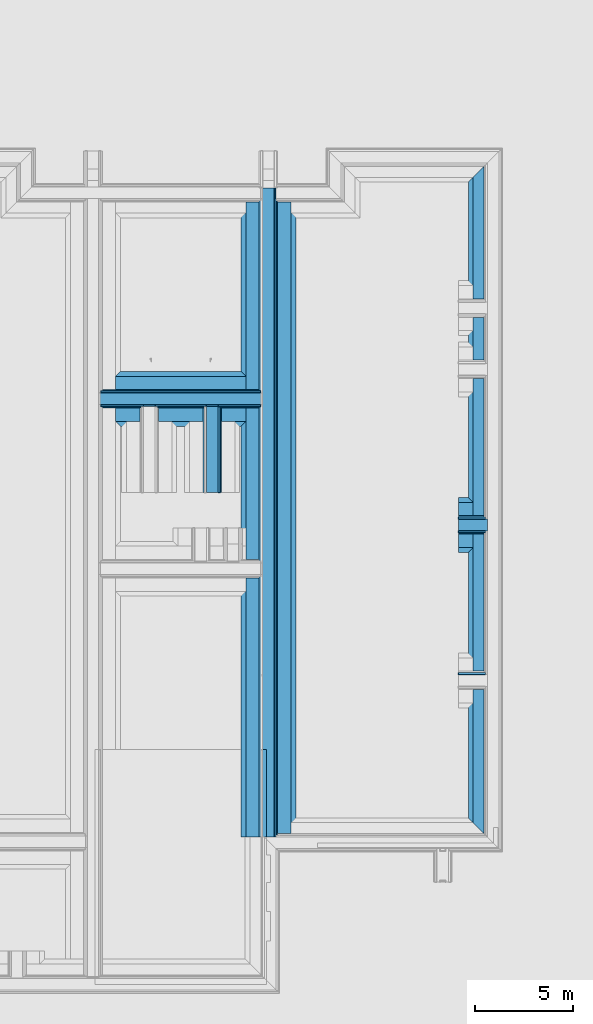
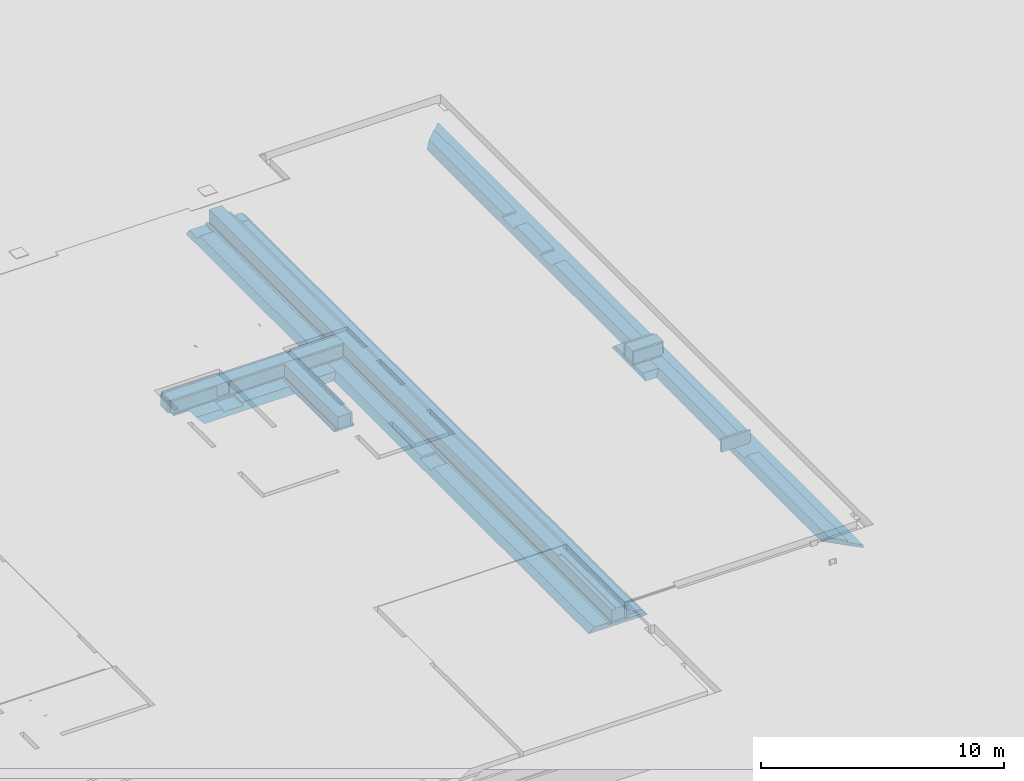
# One storey, part 11 of 15: 19 building element parts, 6 elements without a shape of their own.
"""IFC2X3 building model written with IfcOpenShell, lengths in millimetres."""

from ifc_helpers import new_model, entity, si_unit, converted_unit, derived_unit, money_unit, direction, frame, origin_with_axes, place, context, subcontext, project, spatial, faceted_brep, material, type_object, element, aggregate, save


model = new_model("IFC2X3")

# Units and contexts
model_context = context("Model", 3, precision=0.01, world=origin_with_axes(), true_north=direction((0.0, 1.0)))
plan_context = context("Plan", 3, precision=0.01, world=origin_with_axes(), true_north=direction((0.0, 1.0)))
body_context = subcontext(model_context, "Body", "Model", "MODEL_VIEW")
ifc_project = project(units=[si_unit("LENGTHUNIT", "METRE", prefix="MILLI"), si_unit("AREAUNIT", "SQUARE_METRE"), si_unit("VOLUMEUNIT", "CUBIC_METRE"), converted_unit("PLANEANGLEUNIT", "DEGREE", entity("IfcPlaneAngleMeasure", 0.0174532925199), si_unit("PLANEANGLEUNIT", "RADIAN"), dimensions=[0, 0, 0, 0, 0, 0, 0]), money_unit("EUR"), converted_unit("TIMEUNIT", "Year", entity("IfcTimeMeasure", 31556926.0), si_unit("TIMEUNIT", "SECOND"), dimensions=[0, 0, 1, 0, 0, 0, 0]), si_unit("MASSUNIT", "GRAM", prefix="KILO"), si_unit("THERMODYNAMICTEMPERATUREUNIT", "DEGREE_CELSIUS"), si_unit("LUMINOUSINTENSITYUNIT", "LUMEN"), si_unit("ENERGYUNIT", "JOULE", prefix="MEGA"), derived_unit("THERMALCONDUCTANCEUNIT", [(si_unit("POWERUNIT", "WATT"), 1), (si_unit("LENGTHUNIT", "METRE"), -1), (si_unit("THERMODYNAMICTEMPERATUREUNIT", "KELVIN"), -1)]), derived_unit("SPECIFICHEATCAPACITYUNIT", [(si_unit("ENERGYUNIT", "JOULE"), 1), (si_unit("MASSUNIT", "GRAM", prefix="KILO"), -1), (si_unit("THERMODYNAMICTEMPERATUREUNIT", "KELVIN"), -1)]), derived_unit("MASSDENSITYUNIT", [(si_unit("MASSUNIT", "GRAM", prefix="KILO"), 1), (si_unit("VOLUMEUNIT", "CUBIC_METRE"), -1)])], contexts=[model_context, plan_context])

# Site, building, storey
site_placement = place(None, origin_with_axes())
site = spatial("IfcSite", under=ifc_project, at=site_placement, Name="Site", CompositionType="ELEMENT")
building_placement = place(site_placement, origin_with_axes())
building = spatial("IfcBuilding", under=site, at=building_placement, Name="Naam gebouw", CompositionType="ELEMENT")
storey_placement = place(building_placement, frame((0.0, 0.0, -1050.0), z_axis=(0.0, 0.0, 1.0), x_axis=(1.0, 0.0, 0.0)))
storey = spatial("IfcBuildingStorey", under=building, at=storey_placement, Name="fundering", CompositionType="ELEMENT", Elevation=-1050.0)

# Beam, building element parts
beam_type_1 = type_object("IfcBeamType", Name="Fundering balk IsoBouw Powerkist 2800 x 850", PredefinedType="BEAM")
beam_1_placement = place(storey_placement, frame((54225.0, 28275.0, -60.0000017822), z_axis=(0.0, 0.0, 1.0), x_axis=(0.0, -1.0, 0.0)))
beam_1 = element("IfcBeam", 1, at=beam_1_placement, inside=storey, type_object=beam_type_1, Name="28_Balk-x", ObjectType="BEAM")
ifc_material_1 = material(Name="ALG - TERREIN")
building_element_part_1_placement = place(beam_1_placement, origin_with_axes())
building_element_part_1 = element("IfcBuildingElementPart", 2, at=building_element_part_1_placement, material=ifc_material_1, Name="ALG - TERREIN", context=body_context, shape_type="Brep", body=[
    faceted_brep([(-475.000395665, 754.999964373, 3.96947630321e-06), (-1150.00039795, 754.999964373, 3.96947630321e-06), (-1150.00039795, 0.0, -1.92126834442e-05), (-475.000395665, 0.0, 2.25106189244e-05), (-1400.00037562, 504.999974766, -249.999996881), (-475.000395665, 654.99996234, -100.000009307), (475.000395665, 654.99996234, -100.000009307), (475.000395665, 754.999964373, 3.96947630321e-06), (1150.00039795, 754.999964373, 3.96947630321e-06), (1400.00037562, 504.999974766, -249.999996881), (-1400.00037562, 0.0, -249.999996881), (1400.00037562, 0.0, -249.999996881), (1150.00039795, 0.0, -1.92126834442e-05), (475.000395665, 0.0, 2.25106189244e-05), (475.000395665, 0.0, -100.00001028), (-475.000395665, 0.0, -100.00001028)], [[[0, 1, 2, 3]], [[4, 1, 0, 5, 6, 7, 8, 9]], [[1, 4, 10, 2]], [[11, 12, 13, 14, 15, 3, 2, 10]], [[5, 0, 3, 15]], [[6, 5, 15, 14]], [[7, 6, 14, 13]], [[8, 7, 13, 12]], [[9, 8, 12, 11]], [[4, 9, 11, 10]]]),
])
ifc_material_2 = material(Name="Isolatie - EPS")
building_element_part_2_placement = place(beam_1_placement, origin_with_axes())
building_element_part_2 = element("IfcBuildingElementPart", 3, at=building_element_part_2_placement, material=ifc_material_2, Name="Isolatie - EPS", context=body_context, shape_type="Brep", body=[
    faceted_brep([(-400.000361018, 1304.99997477, 7.15338899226e-07), (-475.000375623, 1304.99997477, 7.15338899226e-07), (-475.000375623, 0.0, 8.43651903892e-06), (-400.000361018, 0.0, 8.43651903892e-06), (-475.000375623, 1304.99997477, -99.9999968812), (-380.000371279, 1304.99997477, 7.15338899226e-07), (-380.000371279, 1304.99997477, -49.0824435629), (-300.000369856, 1304.99997477, -49.0824435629), (-300.000369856, 1304.99997477, 7.15338899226e-07), (300.000369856, 1304.99997477, 7.15338899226e-07), (300.000369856, 1304.99997477, -49.0824435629), (380.000371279, 1304.99997477, -49.0824435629), (380.000371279, 1304.99997477, 7.15338899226e-07), (400.000361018, 1304.99997477, 7.15338899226e-07), (475.000375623, 1304.99997477, 7.15338899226e-07), (475.000375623, 1304.99997477, -99.9999968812), (-475.000375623, 0.0, -99.9999968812), (475.000375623, 0.0, 8.43651926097e-06), (400.000361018, 0.0, 8.43651903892e-06), (380.000371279, 0.0, 8.43651903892e-06), (380.000371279, 0.0, -49.0824435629), (300.000369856, 0.0, -49.0824435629), (300.000369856, 0.0, 8.43651903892e-06), (-300.000369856, 0.0, 8.43651903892e-06), (-300.000369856, 0.0, -49.0824435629), (-380.000371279, 0.0, -49.0824435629), (-380.000371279, 0.0, 8.43651903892e-06), (475.000375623, 0.0, -99.9999968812)], [[[0, 1, 2, 3]], [[4, 1, 0, 5, 6, 7, 8, 9, 10, 11, 12, 13, 14, 15]], [[1, 4, 16, 2]], [[17, 18, 19, 20, 21, 22, 23, 24, 25, 26, 3, 2, 16, 27]], [[5, 0, 3, 26]], [[6, 5, 26, 25]], [[7, 6, 25, 24]], [[8, 7, 24, 23]], [[9, 8, 23, 22]], [[10, 9, 22, 21]], [[11, 10, 21, 20]], [[12, 11, 20, 19]], [[13, 12, 19, 18]], [[14, 13, 18, 17]], [[15, 14, 17, 27]], [[4, 15, 27, 16]]]),
])
building_element_part_3_placement = place(beam_1_placement, origin_with_axes())
building_element_part_3 = element("IfcBuildingElementPart", 4, at=building_element_part_3_placement, material=ifc_material_2, Name="Isolatie - EPS", context=body_context, shape_type="Brep", body=[
    faceted_brep([(-300.00036966, 0.0, 600.000004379), (-300.00036966, 1379.99998712, 600.000000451), (-400.000366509, 1379.99998712, 600.000000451), (-400.000366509, 0.0, 600.000004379), (-300.00036966, 1304.99997477, 7.15338899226e-07), (-300.00036966, 1379.99998712, 7.15338899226e-07), (-300.00036966, 0.0, -49.0824424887), (-300.00036966, 1304.99997477, -49.0824424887), (-400.000366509, 1379.99998712, 7.15338899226e-07), (-400.000366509, 0.0, 2.4249691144e-06), (-380.000369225, 0.0, 2.4249691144e-06), (-380.000369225, 0.0, -49.0824424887), (-380.000369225, 1304.99997477, 7.15338899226e-07), (-380.000369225, 1304.99997477, -49.0824424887)], [[[0, 1, 2, 3]], [[4, 5, 1, 0, 6, 7]], [[5, 8, 2, 1]], [[3, 2, 8, 9]], [[6, 0, 3, 9, 10, 11]], [[9, 8, 5, 4, 12, 10]], [[11, 13, 7, 6]], [[7, 13, 12, 4]], [[10, 12, 13, 11]]]),
])
building_element_part_4_placement = place(beam_1_placement, origin_with_axes())
building_element_part_4 = element("IfcBuildingElementPart", 5, at=building_element_part_4_placement, material=ifc_material_2, Name="Isolatie - EPS", context=body_context, shape_type="Brep", body=[
    faceted_brep([(400.000366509, 0.0, 600.000004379), (400.000366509, 1379.99998712, 600.000000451), (300.00036966, 1379.99998712, 600.000000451), (300.00036966, 0.0, 600.000004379), (400.000366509, 0.0, 2.4249691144e-06), (400.000366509, 1379.99998712, 7.15338899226e-07), (300.00036966, 1379.99998712, 7.15338899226e-07), (300.00036966, 1304.99997477, 7.15338899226e-07), (300.00036966, 1304.99997477, -49.0824424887), (300.00036966, 0.0, -49.0824424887), (380.000369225, 0.0, -49.0824424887), (380.000369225, 0.0, 2.4249691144e-06), (380.000369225, 1304.99997477, 7.15338899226e-07), (380.000369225, 1304.99997477, -49.0824424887)], [[[0, 1, 2, 3]], [[4, 5, 1, 0]], [[5, 6, 2, 1]], [[6, 7, 8, 9, 3, 2]], [[10, 11, 4, 0, 3, 9]], [[7, 6, 5, 4, 11, 12]], [[13, 8, 7, 12]], [[9, 8, 13, 10]], [[10, 13, 12, 11]]]),
])
ifc_material_3 = material(Name="Beton gewapend C")
building_element_part_5_placement = place(beam_1_placement, origin_with_axes())
building_element_part_5 = element("IfcBuildingElementPart", 6, at=building_element_part_5_placement, material=ifc_material_3, Name="Beton gewapend C", context=body_context, shape_type="Brep", body=[
    faceted_brep([(300.000372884, 0.0, 600.0), (300.000372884, 1479.99997751, 600.000001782), (-300.000372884, 1479.99997751, 600.000001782), (-300.000372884, 0.0, 600.0), (300.000372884, 0.0, 0.0), (300.000372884, 1479.99997751, 1.78216552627e-06), (-300.000372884, 1479.99997751, 1.78216552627e-06), (-300.000372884, 0.0, 0.0)], [[[0, 1, 2, 3]], [[4, 5, 1, 0]], [[5, 6, 2, 1]], [[3, 2, 6, 7]], [[3, 7, 4, 0]], [[7, 6, 5, 4]]]),
])
aggregate(beam_1, [building_element_part_1, building_element_part_2, building_element_part_3, building_element_part_4, building_element_part_5])

# Beam, building element part
beam_2_placement = place(storey_placement, frame((54225.0, 20350.0, -60.0000017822), z_axis=(0.0, 0.0, 1.0), x_axis=(0.0, -1.0, 0.0)))
beam_2 = element("IfcBeam", 7, at=beam_2_placement, inside=storey, type_object=beam_type_1, Name="28_Balk-x", ObjectType="BEAM")
building_element_part_6_placement = place(beam_2_placement, origin_with_axes())
building_element_part_6 = element("IfcBuildingElementPart", 8, at=building_element_part_6_placement, material=ifc_material_2, Name="Isolatie - EPS", context=body_context, shape_type="Brep", body=[
    faceted_brep([(-300.00036966, 0.0, 600.000004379), (-300.00036966, 1379.99998712, 600.000000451), (-400.000366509, 1379.99998712, 600.000000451), (-400.000366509, 0.0, 600.000004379), (-300.00036966, 1304.99997477, 7.15338899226e-07), (-300.00036966, 1379.99998712, 7.15338899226e-07), (-300.00036966, 0.0, -49.0824424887), (-300.00036966, 1304.99997477, -49.0824424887), (-400.000366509, 1379.99998712, 7.15338899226e-07), (-400.000366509, 0.0, 2.4249691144e-06), (-380.000369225, 0.0, 2.4249691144e-06), (-380.000369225, 0.0, -49.0824424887), (-380.000369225, 1304.99997477, 7.15338899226e-07), (-380.000369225, 1304.99997477, -49.0824424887)], [[[0, 1, 2, 3]], [[4, 5, 1, 0, 6, 7]], [[5, 8, 2, 1]], [[3, 2, 8, 9]], [[6, 0, 3, 9, 10, 11]], [[9, 8, 5, 4, 12, 10]], [[11, 13, 7, 6]], [[7, 13, 12, 4]], [[10, 12, 13, 11]]]),
])
aggregate(beam_2, [building_element_part_6])

# Beam, building element parts
beam_3_placement = place(storey_placement, frame((41680.0, 34700.0000358, -60.0000017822), z_axis=(0.0, 0.0, 1.0), x_axis=(-1.0, 0.0, 0.0)))
beam_3 = element("IfcBeam", 9, at=beam_3_placement, inside=storey, type_object=beam_type_1, Name="28_Balk-x", ObjectType="BEAM")
building_element_part_7_placement = place(beam_3_placement, origin_with_axes())
building_element_part_7 = element("IfcBuildingElementPart", 10, at=building_element_part_7_placement, material=ifc_material_2, Name="Isolatie - EPS", context=body_context, shape_type="Brep", body=[
    faceted_brep([(-475.000375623, 475.000375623, -99.9999968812), (-475.000375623, 475.000375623, 1.52455683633e-05), (-475.000375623, 4775.00010807, 8.43651903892e-06), (-475.000375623, 4775.00010807, -99.9999968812), (-400.000361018, 475.000375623, 1.52455683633e-05), (475.000375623, 475.000375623, -99.9999968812), (475.000375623, 475.000375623, 1.52455683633e-05), (400.000361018, 475.000375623, 1.52455683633e-05), (380.000371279, 475.000375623, 1.52455683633e-05), (380.000371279, 475.000375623, -49.0824435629), (300.000369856, 475.000375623, -49.0824435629), (300.000369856, 475.000375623, 1.52455683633e-05), (-300.000369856, 475.000375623, 1.52455683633e-05), (-300.000369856, 475.000375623, -49.0824435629), (-380.000371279, 475.000375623, -49.0824435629), (-380.000371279, 475.000375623, 1.52455683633e-05), (-400.000361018, 4775.00010807, 8.43651903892e-06), (300.000369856, 4775.00010807, -49.0824435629), (380.000371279, 4775.00010807, -49.0824435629), (380.000371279, 4775.00010807, 8.43651903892e-06), (400.000361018, 4775.00010807, 8.43651903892e-06), (475.000375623, 4775.00010807, 8.43651926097e-06), (475.000375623, 4775.00010807, -99.9999968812), (-380.000371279, 4775.00010807, 8.43651903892e-06), (-380.000371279, 4775.00010807, -49.0824435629), (-300.000369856, 4775.00010807, -49.0824435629), (-300.000369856, 4775.00010807, 8.43651903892e-06), (300.000369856, 4775.00010807, 8.43651903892e-06)], [[[0, 1, 2, 3]], [[4, 1, 0, 5, 6, 7, 8, 9, 10, 11, 12, 13, 14, 15]], [[1, 4, 16, 2]], [[17, 18, 19, 20, 21, 22, 3, 2, 16, 23, 24, 25, 26, 27]], [[5, 0, 3, 22]], [[6, 5, 22, 21]], [[7, 6, 21, 20]], [[8, 7, 20, 19]], [[9, 8, 19, 18]], [[10, 9, 18, 17]], [[11, 10, 17, 27]], [[12, 11, 27, 26]], [[13, 12, 26, 25]], [[14, 13, 25, 24]], [[15, 14, 24, 23]], [[4, 15, 23, 16]]]),
])
building_element_part_8_placement = place(beam_3_placement, origin_with_axes())
building_element_part_8 = element("IfcBuildingElementPart", 11, at=building_element_part_8_placement, material=ifc_material_2, Name="Isolatie - EPS", context=body_context, shape_type="Brep", body=[
    faceted_brep([(-400.000366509, 4775.00010807, 2.4249691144e-06), (-400.000366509, 400.000373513, 1.52455683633e-05), (-400.000366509, 400.000373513, 600.000004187), (-400.000366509, 4775.00010807, 600.000004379), (-300.00036966, 475.000375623, 1.52455683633e-05), (-300.00036966, 400.000373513, 1.52455683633e-05), (-380.000369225, 4775.00010807, 2.4249691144e-06), (-380.000369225, 475.000375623, 1.52455683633e-05), (-300.00036966, 400.000373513, 600.000004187), (-300.00036966, 4775.00010807, 600.000004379), (-300.00036966, 4775.00010807, -49.0824424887), (-380.000369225, 4775.00010807, -49.0824424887), (-300.00036966, 475.000375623, -49.0824424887), (-380.000369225, 475.000375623, -49.0824424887)], [[[0, 1, 2, 3]], [[4, 5, 1, 0, 6, 7]], [[5, 8, 2, 1]], [[3, 2, 8, 9]], [[10, 11, 6, 0, 3, 9]], [[5, 4, 12, 10, 9, 8]], [[11, 13, 7, 6]], [[4, 7, 13, 12]], [[10, 12, 13, 11]]]),
])
building_element_part_9_placement = place(beam_3_placement, origin_with_axes())
building_element_part_9 = element("IfcBuildingElementPart", 12, at=building_element_part_9_placement, material=ifc_material_3, Name="Beton gewapend C", context=body_context, shape_type="Brep", body=[
    faceted_brep([(-300.000372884, 4775.00010807, 0.0), (-300.000372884, 300.000372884, 0.0), (-300.000372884, 300.000372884, 600.0), (-300.000372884, 4775.00010807, 600.0), (300.000372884, 4775.00010807, 0.0), (300.000372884, 300.000372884, 0.0), (300.000372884, 300.000372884, 600.0), (300.000372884, 4775.00010807, 600.0)], [[[0, 1, 2, 3]], [[4, 5, 1, 0]], [[5, 6, 2, 1]], [[3, 2, 6, 7]], [[4, 0, 3, 7]], [[7, 6, 5, 4]]]),
])
aggregate(beam_3, [building_element_part_7, building_element_part_8, building_element_part_9])

# Beam, building element part
beam_type_2 = type_object("IfcBeamType", Name="Fundering balk IsoBouw Powerkist buitenwand 1750 x 850", PredefinedType="BEAM")
beam_4_placement = place(storey_placement, frame((56024.9999775, 47036.9998512, -60.0000017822), z_axis=(0.0, 0.0, 1.0), x_axis=(-1.0, 0.0, 0.0)))
beam_4 = element("IfcBeam", 13, at=beam_4_placement, inside=storey, type_object=beam_type_2, Name="28_Balk-x", ObjectType="BEAM")
building_element_part_10_placement = place(beam_4_placement, origin_with_axes())
building_element_part_10 = element("IfcBuildingElementPart", 14, at=building_element_part_10_placement, material=ifc_material_1, Name="ALG - TERREIN", context=body_context, shape_type="Brep", body=[
    faceted_brep([(1045.00001313, 7236.99947562, 3.96947630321e-06), (495.00000274, 7236.99947562, 7.15338899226e-07), (495.000015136, 495.000430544, -7.27431315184e-06), (1045.00001313, 1045.00089011, -7.27431315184e-06), (495.00000274, 7236.99947562, -99.9999968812), (1145.00000274, 7236.99947562, -99.9999968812), (495.000015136, 495.000430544, -99.9999926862), (20.0000061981, 20.0000229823, -99.9999926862), (20.0000061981, 20.0000229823, -249.999996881), (1295.00000274, 1295.00108951, -249.999996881), (1295.00000274, 33691.9998148, -249.999996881), (1045.00001313, 33941.9998044, -7.27431315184e-06), (1045.00001313, 27162.0002269, 3.96947630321e-06), (1145.00000274, 27162.0002269, -99.9999968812), (1145.00000274, 26211.9994756, -99.9999968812), (1045.00001313, 26211.9994756, 3.96947630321e-06), (1045.00001313, 19237.0002269, 3.96947630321e-06), (1145.00000274, 19237.0002269, -99.9999968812), (1145.00000274, 18286.9994756, -99.9999968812), (1045.00001313, 18286.9994756, 3.96947630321e-06), (1045.00001313, 11312.0002269, 3.96947630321e-06), (1145.00000274, 11312.0002269, -99.9999968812), (1145.00000274, 10361.9994756, -99.9999968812), (1045.00001313, 10361.9994756, 3.96947630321e-06), (1045.00001313, 8187.00022687, 3.96947630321e-06), (1145.00000274, 8187.00022687, -99.9999968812), (495.00000274, 8187.00022687, -99.9999968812), (495.00000274, 10361.9994756, -99.9999968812), (495.00000274, 11312.0002269, -99.9999968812), (495.00000274, 18286.9994756, -99.9999968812), (495.00000274, 19237.0002269, -99.9999968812), (495.00000274, 26211.9994756, -99.9999968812), (495.00000274, 27162.0002269, -99.9999968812), (495.000015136, 34491.9998024, -99.9999926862), (20.0000061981, 34966.9998114, -99.9999926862), (20.0000061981, 34966.9998114, -249.999996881), (495.000015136, 34491.9998024, -7.27431315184e-06), (495.00000274, 27162.0002269, 7.15338899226e-07), (495.00000274, 26211.9994756, 7.15338899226e-07), (495.00000274, 19237.0002269, 7.15338899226e-07), (495.00000274, 18286.9994756, 7.15338899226e-07), (495.00000274, 11312.0002269, 7.15338899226e-07), (495.00000274, 10361.9994756, 7.15338899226e-07), (495.00000274, 8187.00022687, 7.15338899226e-07)], [[[0, 1, 2, 3]], [[4, 1, 0, 5]], [[1, 4, 6, 2]], [[6, 7, 8, 9, 3, 2]], [[5, 0, 3, 9, 10, 11, 12, 13, 14, 15, 16, 17, 18, 19, 20, 21, 22, 23, 24, 25]], [[4, 5, 25, 26, 27, 22, 21, 28, 29, 18, 17, 30, 31, 14, 13, 32, 33, 34, 7, 6]], [[34, 35, 8, 7]], [[35, 10, 9, 8]], [[35, 34, 33, 36, 11, 10]], [[11, 36, 37, 12]], [[32, 13, 12, 37]], [[15, 14, 31, 38]], [[38, 39, 16, 15]], [[17, 16, 39, 30]], [[18, 29, 40, 19]], [[20, 19, 40, 41]], [[41, 28, 21, 20]], [[42, 23, 22, 27]], [[43, 24, 23, 42]], [[24, 43, 26, 25]], [[26, 43, 42, 27]], [[41, 40, 29, 28]], [[31, 30, 39, 38]], [[36, 33, 32, 37]]]),
])
aggregate(beam_4, [building_element_part_10])

# Beam, building element parts
beam_5_placement = place(storey_placement, frame((35604.9999775, 34700.0000358, -60.0000017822), z_axis=(0.0, 0.0, 1.0), x_axis=(0.0, -1.0, 0.0)))
beam_5 = element("IfcBeam", 15, at=beam_5_placement, inside=storey, type_object=beam_type_1, Name="28_Balk-x", ObjectType="BEAM")
building_element_part_11_placement = place(beam_5_placement, origin_with_axes())
building_element_part_11 = element("IfcBuildingElementPart", 16, at=building_element_part_11_placement, material=ifc_material_1, Name="ALG - TERREIN", context=body_context, shape_type="Brep", body=[
    faceted_brep([(475.000375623, 6550.00039812, -99.9999968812), (475.000375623, 6550.00039812, 1.52455683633e-05), (475.000395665, 7789.99962455, -1.92126834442e-05), (475.000395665, 7689.99963348, -100.00001028), (1150.00039795, 6550.00039812, 1.41767058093e-05), (1250.00037562, 6550.00039812, -99.9999968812), (1150.00039795, 7789.99962455, -1.92126834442e-05), (1400.00037562, 7539.99964688, -249.999996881), (-1400.00037562, 7539.99964688, -249.999996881), (-1150.00039795, 7789.99962455, -1.92126834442e-05), (-475.000395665, 7789.99962455, -1.92126834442e-05), (-475.000395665, 7689.99963348, -100.00001028), (475.000375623, 5599.99964688, -99.9999968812), (1250.00037562, 5599.99964688, -99.9999968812), (-475.000395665, 1250.00041152, -100.00001028), (475.000395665, 1250.00041152, -100.00001028), (475.000375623, 2389.99964688, -99.9999968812), (1250.00037562, 2389.99964688, -99.9999968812), (1250.00037562, 3340.00039812, -99.9999968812), (475.000375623, 3340.00039812, -99.9999968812), (1150.00039795, 5599.99964688, 1.41767058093e-05), (1150.00039795, 3340.00039812, 1.41767058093e-05), (1150.00039795, 2389.99964688, 1.41767058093e-05), (1150.00039795, 1150.00042046, -1.92126834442e-05), (1400.00037562, 1400.00039832, -249.999996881), (-1400.00037562, 1400.00039828, -249.999996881), (-1150.00039795, 1150.00042046, -1.92126834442e-05), (-475.000395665, 1150.00042046, -1.92126834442e-05), (475.000375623, 5599.99964688, 1.52455683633e-05), (475.000395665, 1150.00042046, -1.92126834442e-05), (475.000375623, 2389.99964688, 1.52455683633e-05), (475.000375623, 3340.00039812, 1.52455683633e-05)], [[[0, 1, 2, 3]], [[4, 1, 0, 5]], [[1, 4, 6, 2]], [[2, 6, 7, 8, 9, 10, 11, 3]], [[12, 13, 5, 0, 3, 11, 14, 15, 16, 17, 18, 19]], [[13, 20, 21, 18, 17, 22, 23, 24, 7, 6, 4, 5]], [[8, 7, 24, 25]], [[9, 8, 25, 26]], [[10, 9, 26, 27]], [[11, 10, 27, 14]], [[12, 28, 20, 13]], [[14, 27, 26, 25, 24, 23, 29, 15]], [[29, 30, 16, 15]], [[17, 16, 30, 22]], [[18, 21, 31, 19]], [[28, 12, 19, 31]], [[20, 28, 31, 21]], [[23, 22, 30, 29]]]),
])
building_element_part_12_placement = place(beam_5_placement, origin_with_axes())
building_element_part_12 = element("IfcBuildingElementPart", 17, at=building_element_part_12_placement, material=ifc_material_2, Name="Isolatie - EPS", context=body_context, shape_type="Brep", body=[
    faceted_brep([(-475.000375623, 8464.99964688, 1.52455683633e-05), (-475.000375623, 8464.99964688, -99.9999968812), (-475.000375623, 475.000398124, -99.9999968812), (-475.000375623, 475.000398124, 1.52455683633e-05), (400.000361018, 8464.99964688, 1.52455683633e-05), (475.000375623, 8464.99964688, 1.52455683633e-05), (475.000375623, 8464.99964688, -99.9999968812), (-400.000361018, 8464.99964688, 1.52455683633e-05), (-380.000371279, 8464.99964688, 1.52455683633e-05), (-380.000371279, 8464.99964688, -49.0824435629), (-300.000369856, 8464.99964688, -49.0824435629), (-300.000369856, 8464.99964688, 1.52455683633e-05), (300.000369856, 8464.99964688, 1.52455683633e-05), (300.000369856, 8464.99964688, -49.0824435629), (380.000371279, 8464.99964688, -49.0824435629), (380.000371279, 8464.99964688, 1.52455683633e-05), (475.000375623, 475.000398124, -99.9999968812), (-380.000371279, 475.000398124, -49.0824435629), (-380.000371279, 475.000398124, 1.52455683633e-05), (-400.000361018, 475.000398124, 1.52455683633e-05), (475.000375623, 475.000398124, 1.52455683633e-05), (400.000361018, 475.000398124, 1.52455683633e-05), (380.000371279, 475.000398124, 1.52455683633e-05), (380.000371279, 475.000398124, -49.0824435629), (300.000369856, 475.000398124, -49.0824435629), (300.000369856, 475.000398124, 1.52455683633e-05), (-300.000369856, 475.000398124, 1.52455683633e-05), (-300.000369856, 475.000398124, -49.0824435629)], [[[0, 1, 2, 3]], [[4, 5, 6, 1, 0, 7, 8, 9, 10, 11, 12, 13, 14, 15]], [[1, 6, 16, 2]], [[17, 18, 19, 3, 2, 16, 20, 21, 22, 23, 24, 25, 26, 27]], [[7, 0, 3, 19]], [[5, 4, 21, 20]], [[6, 5, 20, 16]], [[8, 7, 19, 18]], [[9, 8, 18, 17]], [[10, 9, 17, 27]], [[11, 10, 27, 26]], [[12, 11, 26, 25]], [[13, 12, 25, 24]], [[14, 13, 24, 23]], [[15, 14, 23, 22]], [[4, 15, 22, 21]]]),
])
building_element_part_13_placement = place(beam_5_placement, origin_with_axes())
building_element_part_13 = element("IfcBuildingElementPart", 18, at=building_element_part_13_placement, material=ifc_material_2, Name="Isolatie - EPS", context=body_context, shape_type="Brep", body=[
    faceted_brep([(-380.000369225, 8464.99964688, -49.0824424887), (-380.000369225, 475.000398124, -49.0824424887), (-380.000369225, 475.000398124, 1.52455683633e-05), (-380.000369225, 8464.99964688, 1.52455683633e-05), (-300.00036966, 8464.99964688, -49.0824424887), (-300.00036966, 475.000398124, -49.0824424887), (-300.00036966, 475.000398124, 1.52455683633e-05), (-300.00036966, 400.000396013, 1.52455683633e-05), (-400.000366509, 400.000396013, 1.52455683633e-05), (-400.000366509, 8539.99964899, 1.52455683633e-05), (-300.00036966, 8539.99964899, 1.52455683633e-05), (-300.00036966, 8464.99964688, 1.52455683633e-05), (-300.00036966, 8539.99964899, 600.000004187), (-300.00036966, 400.000396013, 600.000004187), (-400.000366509, 400.000396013, 600.000004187), (-400.000366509, 8539.99964899, 600.000004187)], [[[0, 1, 2, 3]], [[4, 5, 1, 0]], [[6, 2, 1, 5]], [[6, 7, 8, 9, 10, 11, 3, 2]], [[11, 4, 0, 3]], [[7, 6, 5, 4, 11, 10, 12, 13]], [[7, 13, 14, 8]], [[9, 8, 14, 15]], [[12, 10, 9, 15]], [[15, 14, 13, 12]]]),
])
building_element_part_14_placement = place(beam_5_placement, origin_with_axes())
building_element_part_14 = element("IfcBuildingElementPart", 19, at=building_element_part_14_placement, material=ifc_material_2, Name="Isolatie - EPS", context=body_context, shape_type="Brep", body=[
    faceted_brep([(300.000372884, 5774.99964962, 600.0), (300.000372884, 5774.99964962, 0.0), (300.000372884, 6375.00039538, 0.0), (300.000372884, 6375.00039538, 600.0), (300.00036966, 8539.99964899, 600.000004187), (300.00036966, 8539.99964899, 1.52455683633e-05), (300.00036966, 8464.99964688, 1.52455683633e-05), (300.00036966, 8464.99964688, -49.0824424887), (300.00036966, 475.000398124, -49.0824424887), (300.00036966, 475.000398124, 1.52455683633e-05), (300.00036966, 400.000396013, 1.52455683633e-05), (300.00036966, 400.000396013, 600.000004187), (300.000372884, 2564.99964962, 600.0), (300.000372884, 2564.99964962, 0.0), (300.000372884, 3165.00039538, 0.0), (300.000372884, 3165.00039538, 600.0), (380.000369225, 5774.99964962, 0.0), (400.000366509, 5774.99964962, 600.0), (400.000366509, 5774.99964962, 0.0), (380.000369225, 6375.00039538, 0.0), (400.000366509, 6375.00039538, 0.0), (400.000366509, 6375.00039538, 600.0), (400.000366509, 8539.99964899, 600.000004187), (400.000366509, 8539.99964899, 1.52455683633e-05), (380.000369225, 8464.99964688, 1.52455683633e-05), (380.000369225, 8464.99964688, -49.0824424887), (380.000369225, 475.000398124, -49.0824424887), (380.000369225, 475.000398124, 1.52455683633e-05), (380.000369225, 2564.99964962, 0.0), (400.000366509, 2564.99964962, 0.0), (400.000366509, 400.000396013, 1.52455683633e-05), (400.000366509, 400.000396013, 600.000004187), (400.000366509, 2564.99964962, 600.0), (380.000369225, 3165.00039538, 0.0), (400.000366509, 3165.00039538, 0.0), (400.000366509, 3165.00039538, 600.0)], [[[0, 1, 2, 3, 4, 5, 6, 7, 8, 9, 10, 11, 12, 13, 14, 15]], [[16, 1, 0, 17, 18]], [[19, 2, 1, 16]], [[20, 21, 3, 2, 19]], [[4, 3, 21, 22]], [[5, 4, 22, 23]], [[23, 20, 19, 24, 6, 5]], [[7, 6, 24, 25]], [[8, 7, 25, 26]], [[8, 26, 27, 9]], [[9, 27, 28, 29, 30, 10]], [[11, 10, 30, 31]], [[11, 31, 32, 12]], [[29, 28, 13, 12, 32]], [[28, 33, 14, 13]], [[33, 34, 35, 15, 14]], [[35, 17, 0, 15]], [[34, 18, 17, 35]], [[33, 16, 18, 34]], [[24, 19, 16, 33, 28, 27, 26, 25]], [[22, 21, 20, 23]], [[31, 30, 29, 32]]]),
])
building_element_part_15_placement = place(beam_5_placement, origin_with_axes())
building_element_part_15 = element("IfcBuildingElementPart", 20, at=building_element_part_15_placement, material=ifc_material_3, Name="Beton gewapend C", context=body_context, shape_type="Brep", body=[
    faceted_brep([(-300.000372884, 8639.99964962, 0.0), (-300.000372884, 300.000395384, 0.0), (-300.000372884, 300.000395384, 600.0), (-300.000372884, 8639.99964962, 600.0), (300.000372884, 8639.99964962, 0.0), (300.000372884, 300.000395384, 0.0), (300.000372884, 300.000395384, 600.0), (300.000372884, 8639.99964962, 600.0)], [[[0, 1, 2, 3]], [[4, 5, 1, 0]], [[5, 6, 2, 1]], [[3, 2, 6, 7]], [[7, 4, 0, 3]], [[7, 6, 5, 4]]]),
])
aggregate(beam_5, [building_element_part_11, building_element_part_12, building_element_part_13, building_element_part_14, building_element_part_15])

beam_6_placement = place(storey_placement, frame((44545.0, 45453.0, -60.0000017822), z_axis=(0.0, 0.0, 1.0), x_axis=(-1.0, 0.0, 0.0)))
beam_6 = element("IfcBeam", 21, at=beam_6_placement, inside=storey, type_object=beam_type_1, Name="28_Balk-x", ObjectType="BEAM")
building_element_part_16_placement = place(beam_6_placement, origin_with_axes())
building_element_part_16 = element("IfcBuildingElementPart", 22, at=building_element_part_16_placement, material=ifc_material_1, Name="ALG - TERREIN", context=body_context, shape_type="Brep", body=[
    faceted_brep([(-1250.00037562, 32907.9999636, -99.9999968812), (-1250.00037143, 33082.9999534, -99.9999926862), (-1400.00037562, 33082.9999125, -249.999996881), (-1400.00037562, 0.0, -249.999996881), (-1250.00037562, 0.0, -99.9999968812), (-1250.00037143, 250.000006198, -99.9999926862), (-1250.00037562, 725.00000274, -99.9999968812), (-1150.00039795, 725.00000274, 7.15338899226e-07), (-1150.00039795, 32907.9999636, 7.15338899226e-07), (-475.000395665, 32907.9999636, -99.9999968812), (-475.000395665, 33082.9999125, -99.9999926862), (475.000395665, 33082.9999125, -100.00001028), (475.000395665, 33082.9999125, 2.25106189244e-05), (1150.00039795, 33082.9999125, -1.92126834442e-05), (1400.00037562, 33082.9999125, -249.999996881), (1400.00037562, 0.0, -249.999996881), (1250.00037562, 0.0, -99.9999968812), (475.000395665, 0.0, -99.9999968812), (-475.000395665, 0.0, -99.9999968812), (-475.000395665, 250.000006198, -99.9999926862), (-475.000395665, 725.00000274, -99.9999968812), (-475.000395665, 725.00000274, 7.15338899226e-07), (-475.000395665, 32907.9999636, 7.15338899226e-07), (475.000395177, 250.000006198, -99.9999926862), (475.000394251, 725.00000274, -99.9999968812), (475.000375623, 10277.9995886, -99.9999968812), (1250.00037562, 10277.9995886, -99.9999968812), (1250.00037562, 11228.0003399, -99.9999968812), (475.000375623, 11228.0003399, -99.9999968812), (475.000375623, 18937.9996244, -99.9999968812), (1250.00037562, 18937.9996244, -99.9999968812), (1250.00037562, 19888.0003756, -99.9999968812), (475.000375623, 19888.0003756, -99.9999968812), (475.000375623, 19888.0003756, 1.52455683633e-05), (1150.00039795, 19888.0003756, 1.25125760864e-05), (1150.00039795, 725.00000274, 7.15338899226e-07), (1250.00037562, 725.00000274, -99.9999968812), (1250.00037143, 250.000006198, -99.9999926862), (1150.00039795, 18937.9996244, 1.25125760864e-05), (1150.00039795, 11228.0003399, 1.25125760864e-05), (1150.00039795, 10277.9995886, 1.25125760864e-05), (475.000375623, 10277.9995886, 1.52455683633e-05), (475.000394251, 725.00000274, 7.15338899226e-07), (475.000375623, 11228.0003399, 1.52455683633e-05), (475.000375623, 18937.9996244, 1.52455683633e-05)], [[[0, 1, 2, 3, 4, 5, 6, 7, 8]], [[1, 0, 9, 10]], [[1, 10, 11, 12, 13, 14, 2]], [[15, 3, 2, 14]], [[16, 17, 18, 4, 3, 15]], [[18, 19, 5, 4]], [[19, 20, 6, 5]], [[20, 21, 7, 6]], [[22, 8, 7, 21]], [[0, 8, 22, 9]], [[10, 9, 20, 19, 18, 17, 23, 24, 25, 26, 27, 28, 29, 30, 31, 32, 11]], [[33, 12, 11, 32]], [[34, 13, 12, 33]], [[35, 36, 37, 16, 15, 14, 13, 34, 31, 30, 38, 39, 27, 26, 40]], [[16, 37, 23, 17]], [[9, 22, 21, 20]], [[37, 36, 24, 23]], [[41, 25, 24, 42]], [[25, 41, 40, 26]], [[39, 43, 28, 27]], [[29, 28, 43, 44]], [[44, 38, 30, 29]], [[33, 32, 31, 34]], [[24, 36, 35, 42]], [[44, 43, 39, 38]], [[40, 41, 42, 35]]]),
])
building_element_part_17_placement = place(beam_6_placement, origin_with_axes())
building_element_part_17 = element("IfcBuildingElementPart", 23, at=building_element_part_17_placement, material=ifc_material_2, Name="Isolatie - EPS", context=body_context, shape_type="Brep", body=[
    faceted_brep([(380.000371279, 0.0, 8.43651903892e-06), (380.000371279, 33082.9999125, 8.43651903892e-06), (380.000371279, 33082.9999125, -49.0824435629), (380.000371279, 0.0, -49.0824435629), (400.000361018, 0.0, 8.43651903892e-06), (400.000361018, 33082.9999125, 8.43651903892e-06), (-300.000369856, 33082.9999125, -49.0824435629), (-300.000369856, 33082.9999125, 8.43651903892e-06), (300.000369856, 33082.9999125, 8.43651903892e-06), (300.000369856, 33082.9999125, -49.0824435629), (475.000375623, 33082.9999125, 8.43651926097e-06), (475.000375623, 33082.9999125, -99.9999968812), (-475.000375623, 33082.9999125, -99.9999968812), (-475.000375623, 33082.9999125, 8.43651903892e-06), (-400.000361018, 33082.9999125, 8.43651903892e-06), (-380.000371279, 33082.9999125, 8.43651903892e-06), (-380.000371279, 33082.9999125, -49.0824435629), (300.000369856, 0.0, -49.0824435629), (-475.000375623, 0.0, 8.43651903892e-06), (-475.000375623, 0.0, -99.9999968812), (475.000375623, 0.0, -99.9999968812), (475.000375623, 0.0, 8.43651926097e-06), (300.000369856, 0.0, 8.43651903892e-06), (-300.000369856, 0.0, 8.43651903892e-06), (-300.000369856, 0.0, -49.0824435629), (-380.000371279, 0.0, -49.0824435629), (-380.000371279, 0.0, 8.43651903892e-06), (-400.000361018, 0.0, 8.43651903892e-06)], [[[0, 1, 2, 3]], [[4, 5, 1, 0]], [[6, 7, 8, 9, 2, 1, 5, 10, 11, 12, 13, 14, 15, 16]], [[3, 2, 9, 17]], [[18, 19, 20, 21, 4, 0, 3, 17, 22, 23, 24, 25, 26, 27]], [[21, 10, 5, 4]], [[23, 7, 6, 24]], [[22, 8, 7, 23]], [[17, 9, 8, 22]], [[20, 11, 10, 21]], [[19, 12, 11, 20]], [[18, 13, 12, 19]], [[27, 14, 13, 18]], [[26, 15, 14, 27]], [[25, 16, 15, 26]], [[24, 6, 16, 25]]]),
])
building_element_part_18_placement = place(beam_6_placement, origin_with_axes())
building_element_part_18 = element("IfcBuildingElementPart", 24, at=building_element_part_18_placement, material=ifc_material_2, Name="Isolatie - EPS", context=body_context, shape_type="Brep", body=[
    faceted_brep([(-400.000366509, 550.0, 600.000001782), (-400.000366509, 33082.9999125, 600.000004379), (-400.000366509, 33082.9999125, 2.4249691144e-06), (-400.000366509, 550.0, 1.78216552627e-06), (-300.00036966, 550.0, 600.000001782), (-300.00036966, 33082.9999125, 600.000004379), (-300.00036966, 33082.9999125, -49.0824424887), (-380.000369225, 33082.9999125, -49.0824424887), (-380.000369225, 33082.9999125, 2.4249691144e-06), (-380.000369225, 550.0, 1.78216552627e-06), (-300.00036966, 550.0, 1.78216552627e-06), (-300.00036966, 0.0, 1.4851386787e-07), (-300.00036966, 0.0, -49.0824424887), (-380.000369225, 0.0, -49.0824424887), (-380.000369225, 0.0, 1.4851386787e-07)], [[[0, 1, 2, 3]], [[4, 5, 1, 0]], [[5, 6, 7, 8, 2, 1]], [[3, 2, 8, 9]], [[3, 9, 10, 4, 0]], [[6, 5, 4, 10, 11, 12]], [[7, 6, 12, 13]], [[8, 7, 13, 14, 9]], [[14, 11, 10, 9]], [[14, 13, 12, 11]]]),
])
building_element_part_19_placement = place(beam_6_placement, origin_with_axes())
building_element_part_19 = element("IfcBuildingElementPart", 25, at=building_element_part_19_placement, material=ifc_material_3, Name="Beton gewapend C", context=body_context, shape_type="Brep", body=[
    faceted_brep([(99.9992929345, 28628.0, 600.0), (99.9992929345, 33082.9999125, 600.0), (-300.000372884, 33082.9999125, 600.0), (-300.000372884, 0.0, 600.0), (300.000372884, 0.0, 600.0), (300.000372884, 28628.0, 600.0), (99.9992929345, 28628.0, 570.000001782), (99.9992929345, 33082.9999125, 570.000001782), (300.000372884, 33082.9999125, 570.000001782), (300.000372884, 33082.9999125, 0.0), (-300.000372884, 33082.9999125, 0.0), (-300.000372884, 0.0, 0.0), (300.000372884, 0.0, 0.0), (300.000372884, 28628.0, 570.000001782)], [[[0, 1, 2, 3, 4, 5]], [[1, 0, 6, 7]], [[7, 8, 9, 10, 2, 1]], [[3, 2, 10, 11]], [[12, 4, 3, 11]], [[13, 5, 4, 12, 9, 8]], [[0, 5, 13, 6]], [[8, 7, 6, 13]], [[11, 10, 9, 12]]]),
])
aggregate(beam_6, [building_element_part_16, building_element_part_17, building_element_part_18, building_element_part_19])

save(model, "model.ifc")
